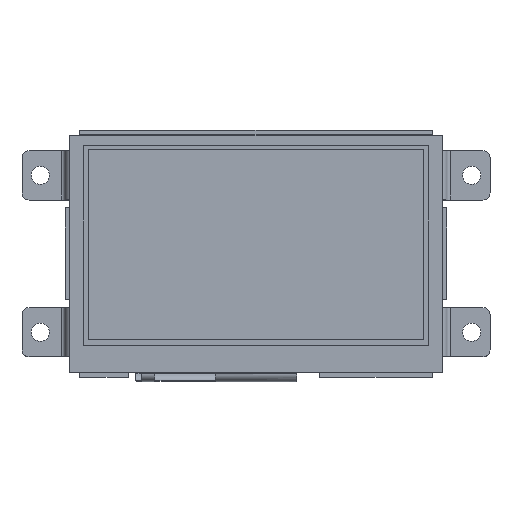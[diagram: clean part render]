
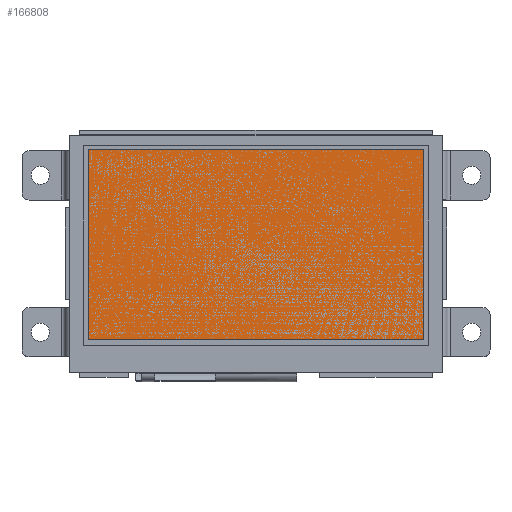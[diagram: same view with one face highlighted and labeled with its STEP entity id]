
A CAD part, top view. The second image highlights one B-rep face of the part: STEP entity #166808.
In plain terms, the highlighted planar face has unit normal (0, 0, 1).
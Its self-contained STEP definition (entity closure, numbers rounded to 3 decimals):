
#7648 = PLANE ( 'NONE',  #159327 ) ;
#14797 = ORIENTED_EDGE ( 'NONE', *, *, #150907, .T. ) ;
#23065 = ORIENTED_EDGE ( 'NONE', *, *, #81483, .T. ) ;
#27087 = DIRECTION ( 'NONE',  ( 0., 0., 1. ) ) ;
#35016 = ORIENTED_EDGE ( 'NONE', *, *, #94531, .T. ) ;
#37255 = LINE ( 'NONE', #58157, #134552 ) ;
#40184 = VECTOR ( 'NONE', #104973, 1000. ) ;
#41112 = EDGE_CURVE ( 'NONE', #181478, #138678, #195401, .T. ) ;
#48170 = DIRECTION ( 'NONE',  ( 0., -1., 0. ) ) ;
#58157 = CARTESIAN_POINT ( 'NONE',  ( -47.52, 29.42, 2.85 ) ) ;
#68037 = ORIENTED_EDGE ( 'NONE', *, *, #41112, .T. ) ;
#73795 = FACE_OUTER_BOUND ( 'NONE', #230416, .T. ) ;
#78286 = LINE ( 'NONE', #114136, #181429 ) ;
#81483 = EDGE_CURVE ( 'NONE', #234291, #246336, #37255, .T. ) ;
#87104 = CARTESIAN_POINT ( 'NONE',  ( -47.52, -24.44, 2.85 ) ) ;
#94531 = EDGE_CURVE ( 'NONE', #246336, #181478, #207081, .T. ) ;
#104973 = DIRECTION ( 'NONE',  ( 1., 0., 0. ) ) ;
#114136 = CARTESIAN_POINT ( 'NONE',  ( 47.52, 29.42, 2.85 ) ) ;
#122479 = CARTESIAN_POINT ( 'NONE',  ( 0., 0., 2.85 ) ) ;
#134552 = VECTOR ( 'NONE', #192210, 1000. ) ;
#138678 = VERTEX_POINT ( 'NONE', #206285 ) ;
#150907 = EDGE_CURVE ( 'NONE', #138678, #234291, #78286, .T. ) ;
#159327 = AXIS2_PLACEMENT_3D ( 'NONE', #122479, #27087, #202841 ) ;
#166808 = ADVANCED_FACE ( 'NONE', ( #73795 ), #7648, .T. ) ;
#167386 = CARTESIAN_POINT ( 'NONE',  ( -47.52, -24.44, 2.85 ) ) ;
#173310 = DIRECTION ( 'NONE',  ( 0., 1., 0. ) ) ;
#180597 = CARTESIAN_POINT ( 'NONE',  ( -47.52, 29.42, 2.85 ) ) ;
#181429 = VECTOR ( 'NONE', #173310, 1000. ) ;
#181478 = VERTEX_POINT ( 'NONE', #167386 ) ;
#190756 = CARTESIAN_POINT ( 'NONE',  ( -47.52, 29.42, 2.85 ) ) ;
#192210 = DIRECTION ( 'NONE',  ( -1., 0., 0. ) ) ;
#195401 = LINE ( 'NONE', #87104, #40184 ) ;
#202841 = DIRECTION ( 'NONE',  ( 1., 0., 0. ) ) ;
#206285 = CARTESIAN_POINT ( 'NONE',  ( 47.52, -24.44, 2.85 ) ) ;
#207081 = LINE ( 'NONE', #180597, #225325 ) ;
#222780 = CARTESIAN_POINT ( 'NONE',  ( 47.52, 29.42, 2.85 ) ) ;
#225325 = VECTOR ( 'NONE', #48170, 1000. ) ;
#230416 = EDGE_LOOP ( 'NONE', ( #35016, #68037, #14797, #23065 ) ) ;
#234291 = VERTEX_POINT ( 'NONE', #222780 ) ;
#246336 = VERTEX_POINT ( 'NONE', #190756 ) ;
